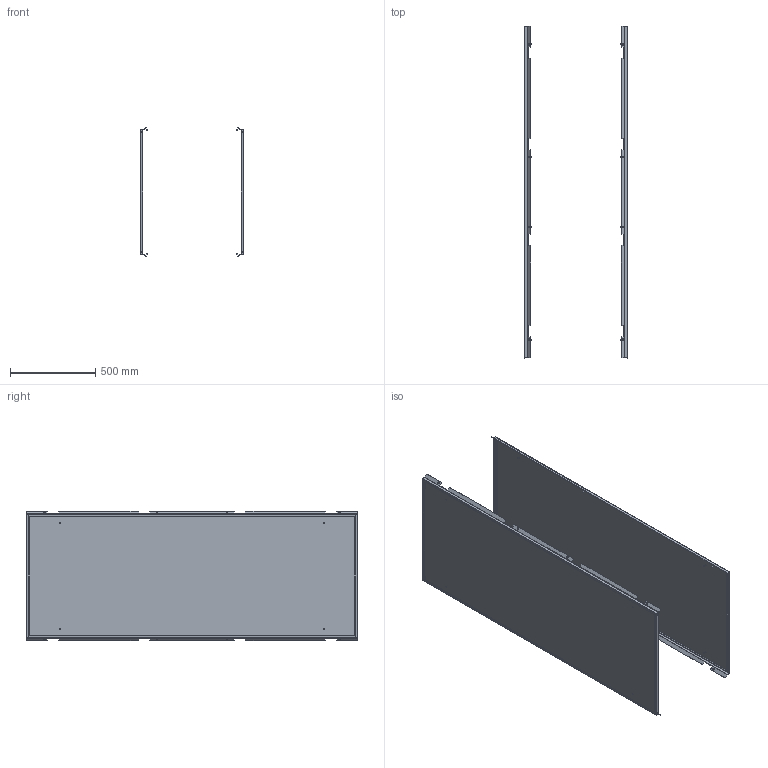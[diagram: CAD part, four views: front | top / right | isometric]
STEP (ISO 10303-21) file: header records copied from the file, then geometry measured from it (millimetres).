
FILE_DESCRIPTION (( 'STEP AP203' ), '1' );
FILE_NAME ('MA1.200.060820.20.00 AleSta-PS208 Áîêîâûå ïàíåëè AleSta 2000x800 (2 øò).STEP', '2025-02-19T14:40:42', ( '' ), ( '' ), 'SwSTEP 2.0', 'SolidWorks 2021', '' );
FILE_SCHEMA (( 'CONFIG_CONTROL_DESIGN' ));
Length unit declared in the file: millimetre
Products named in the file (6): MA1.200.060620.21.00 Ñòåíêà áîêîâàÿ 600x2000_2000å800; Øïèëüêà Ì6õ12_˜¯¨«ìª  Œ6å12; MA1.200.060820.20.00 AleSta-PS208  Áîêîâûå ïàíåëè AleSta 2000x800 (2 øò); Óïëîòíèòåëü ïàíåëè íèæíåé_ ‚=2000; Âèíò ñàìîíàðåçàþùèé ñ ïîòàéíîé ãîëîâêîé Ì5x16 DIN 7500 M TORX, êëàññ ïðî÷íîñòè 8.8, îöèíêîâàííàÿ ñòàëü_Œ5å16; MA1.200.060620.21.01 Ïîëîòíî ñòåíêè áîêîâîé 600õ2000_2000å800
Assembly tree (24 placements, depth 3):
  MA1.200.060820.20.00 AleSta-PS208  Áîêîâûå ïàíåëè AleSta 2000x800 (2 øò)
    MA1.200.060620.21.00 Ñòåíêà áîêîâàÿ 600x2000_2000å800  x2
      MA1.200.060620.21.01 Ïîëîòíî ñòåíêè áîêîâîé 600õ2000_2000å800
      Øïèëüêà Ì6õ12_˜¯¨«ìª  Œ6å12
      Óïëîòíèòåëü ïàíåëè íèæíåé_ ‚=2000
    Âèíò ñàìîíàðåçàþùèé ñ ïîòàéíîé ãîëîâêîé Ì5x16 DIN 7500 M TORX, êëàññ ïðî÷íîñòè 8.8, îöèíêîâàííàÿ ñòàëü_Œ5å16  x16
Bounding box: 606 x 1945 x 760.73 mm (x, y, z)
Volume: 3849594.2 mm3; surface area: 6704353.4 mm2
Topology: 28 solids, 28 shells, 1116 faces, 2788 edges, 1784 vertices
Faces by surface type: cylinder 636, plane 368, cone 80, bspline 16, torus 16
Entity records: 8629 total; most frequent: CARTESIAN_POINT 1714, DIRECTION 1281, ORIENTED_EDGE 1158, EDGE_CURVE 579, AXIS2_PLACEMENT_3D 475, VERTEX_POINT 360, LINE 331, VECTOR 331
